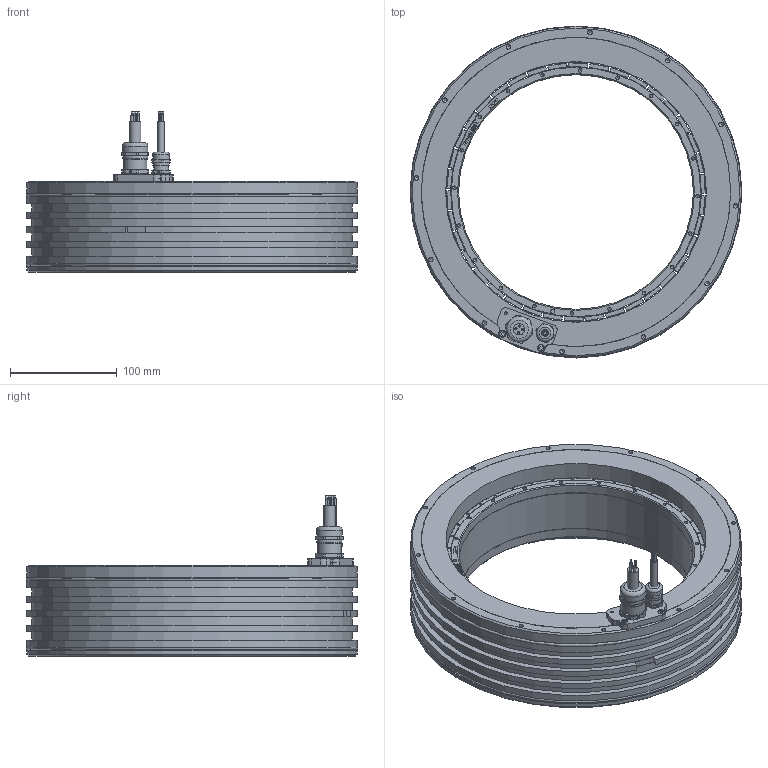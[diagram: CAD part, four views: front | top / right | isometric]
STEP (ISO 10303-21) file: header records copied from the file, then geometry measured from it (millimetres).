
FILE_DESCRIPTION(/* description */ ('QTL-290-85 KIT'),/* implementation_level */ '2;1');
FILE_NAME(/* name */ 'Torque_QTL_310_85_N_Kit_CAD_190320',/* time_stamp */ '2019-03-25T09:03:05+01:00',/* author */ ('MTE'),/* organization */ ('TECNOTION'),/* preprocessor_version */ 'ST-DEVELOPER v16.7',/* originating_system */ 'DEX',/* authorisation */ $);
FILE_SCHEMA (('AP242_MANAGED_MODEL_BASED_3D_ENGINEERING_MIM_LF { 1 0 10303 442 1 1 4 }','AUTOMOTIVE_DESIGN {1 0 10303 214 3 1 1}'));
Length unit declared in the file: millimetre
Products named in the file (2): 1110611_181123
Assembly tree (1 placements, depth 2):
  1110611_181123
    1110611_181123
Bounding box: 311 x 311 x 150 mm (x, y, z)
Volume: 2737027.2 mm3; surface area: 643276.7 mm2
Topology: 51 solids, 51 shells, 1719 faces, 3979 edges, 2127 vertices
Faces by surface type: cylinder 653, plane 611, sphere 304, cone 132, bspline 12, torus 7
Full cylindrical faces by diameter (mm): 1.35 x6, 1.5 x6, 1.598 x4, 2 x4, 2.459 x3, 3 x3, 3.2 x2, 3.242 x40, 3.5 x1, 4 x2, 4.134 x24, 5.5 x2, 6.4 x1, 6.5 x2, 7 x1, 8.136 x1, 10.16 x1, 10.376 x1, 10.6 x1, 12 x1, 14 x1, 14.536 x1, 15.68 x1, 15.98 x1, 18.16 x1, 18.376 x1, 20 x1, 22 x1, 23.52 x1, 23.98 x1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
Entity records: 47318 total; most frequent: CARTESIAN_POINT 8687, DIRECTION 7588, ORIENTED_EDGE 6576, EDGE_CURVE 3288, AXIS2_PLACEMENT_3D 3095, FACE_BOUND 2100, VERTEX_POINT 2040, EDGE_LOOP 2032
